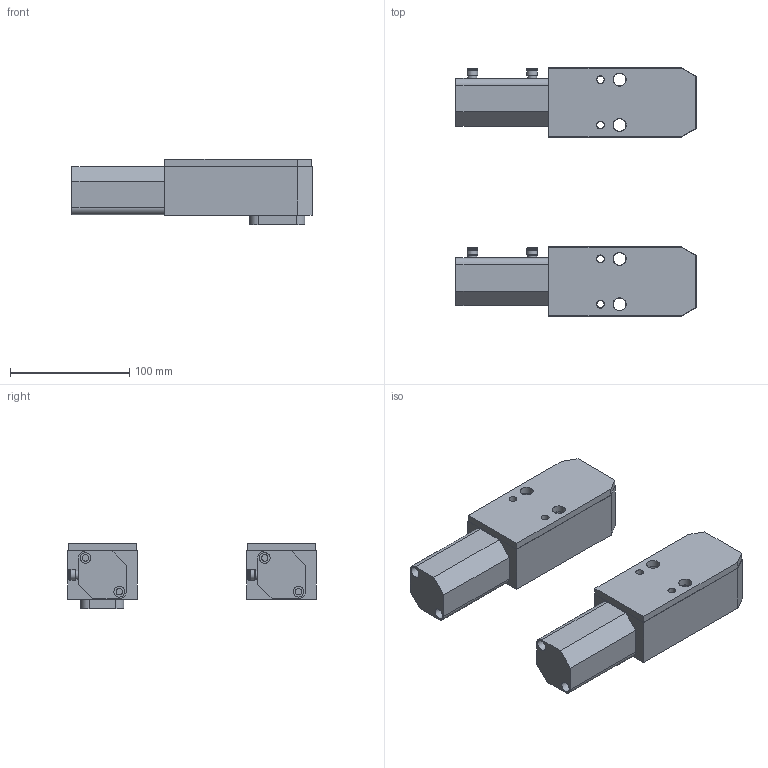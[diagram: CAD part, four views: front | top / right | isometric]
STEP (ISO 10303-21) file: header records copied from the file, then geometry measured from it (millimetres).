
FILE_DESCRIPTION(('STEP AP214'),'1');
FILE_NAME('1003.0025.stp','2020-05-22T14:12:41',(' '),(' '),'Spatial InterOp 3D',' ',' ');
FILE_SCHEMA(('AUTOMOTIVE_DESIGN { 1 0 10303 214 1 1 1 1 }'));
Length unit declared in the file: millimetre
Products named in the file (7): (PMS) 1003.0025; 5; 4; Assemblato; (PMI) 1003.0025; 6; 2
Assembly tree (6 placements, depth 3):
  Assemblato
    (PMS) 1003.0025
      5
      4
    (PMI) 1003.0025
      6
      2
Bounding box: 201 x 208 x 55 mm (x, y, z)
Volume: 808564.9 mm3; surface area: 140518.3 mm2
Topology: 4 solids, 4 shells, 800 faces, 2132 edges, 1420 vertices
Faces by surface type: extrusion 422, plane 254, cylinder 106, torus 12, cone 4, sphere 2
Full cylindrical faces by diameter (mm): 5.5 x4, 6 x4, 6.5 x4, 6.8 x4, 7.5 x8, 9 x12, 10.5 x4, 11 x4, 16.9 x4, 25 x2
Entity records: 31568 total; most frequent: CARTESIAN_POINT 6857, ORIENTED_EDGE 4088, DIRECTION 2622, EDGE_CURVE 2044, VERTEX_POINT 1402, VECTOR 1392, B_SPLINE_CURVE_WITH_KNOTS 1268, LINE 970
